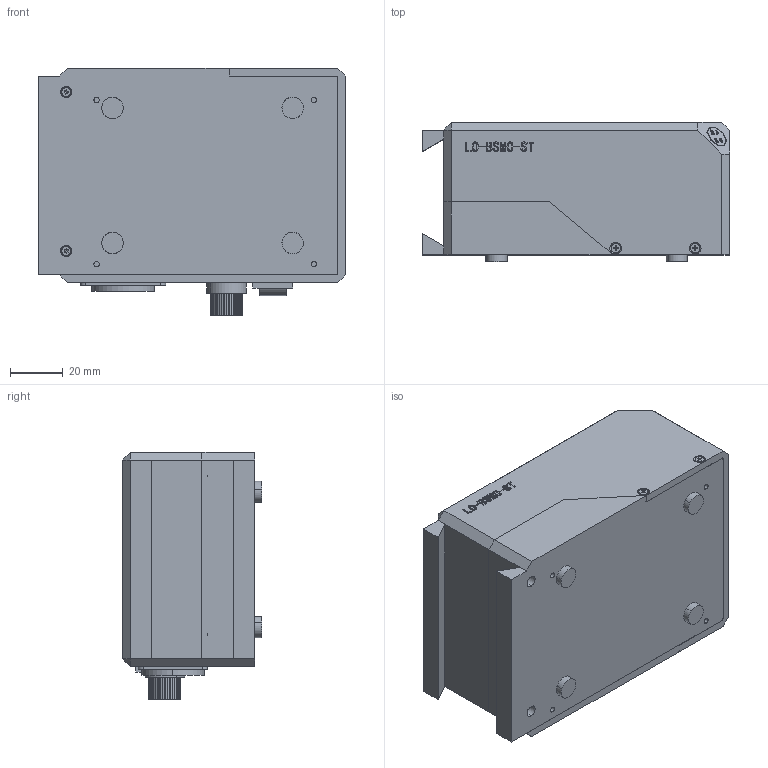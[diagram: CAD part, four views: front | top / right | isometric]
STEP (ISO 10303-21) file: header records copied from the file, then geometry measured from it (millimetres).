
FILE_DESCRIPTION (( 'STEP AP214' ), '1' );
FILE_NAME ('自研单片机板卡设计控制器外壳.STEP', '2026-07-01T01:21:32', ( '' ), ( '' ), 'SwSTEP 2.0', 'SolidWorks 2024', '' );
FILE_SCHEMA (( 'AUTOMOTIVE_DESIGN' ));
Length unit declared in the file: millimetre
Products named in the file (11): 垫高柱; 上罩壳; DB9模块; hexagon socket head cap screws gb_GB_FASTENER_SCREWS_HSHCS M2X5-N; cross recessed countersunk head screws gb1_GB_CROSS_SCREWS_TYPE4 M2X5-3.8  H type-N; 垫脚; 下罩壳; 保险座; 主板; 自研单片机板卡设计控制器外壳; 开关
Assembly tree (22 placements, depth 2):
  自研单片机板卡设计控制器外壳
    下罩壳
    上罩壳
    开关
    DB9模块
    保险座
    主板
    垫高柱  x4
    hexagon socket head cap screws gb_GB_FASTENER_SCREWS_HSHCS M2X5-N  x2
    cross recessed countersunk head screws gb1_GB_CROSS_SCREWS_TYPE4 M2X5-3.8  H type-N  x6
    垫脚  x4
Bounding box: 116 x 52.5 x 93.5 mm (x, y, z)
Volume: 161604.5 mm3; surface area: 103869 mm2
Topology: 22 solids, 22 shells, 1281 faces, 3424 edges, 2242 vertices
Faces by surface type: plane 814, cylinder 278, bspline 137, cone 48, torus 4
Entity records: 41251 total; most frequent: CARTESIAN_POINT 13457, ORIENTED_EDGE 5972, DIRECTION 5146, EDGE_CURVE 2986, VECTOR 2254, LINE 2254, VERTEX_POINT 1973, AXIS2_PLACEMENT_3D 1446
